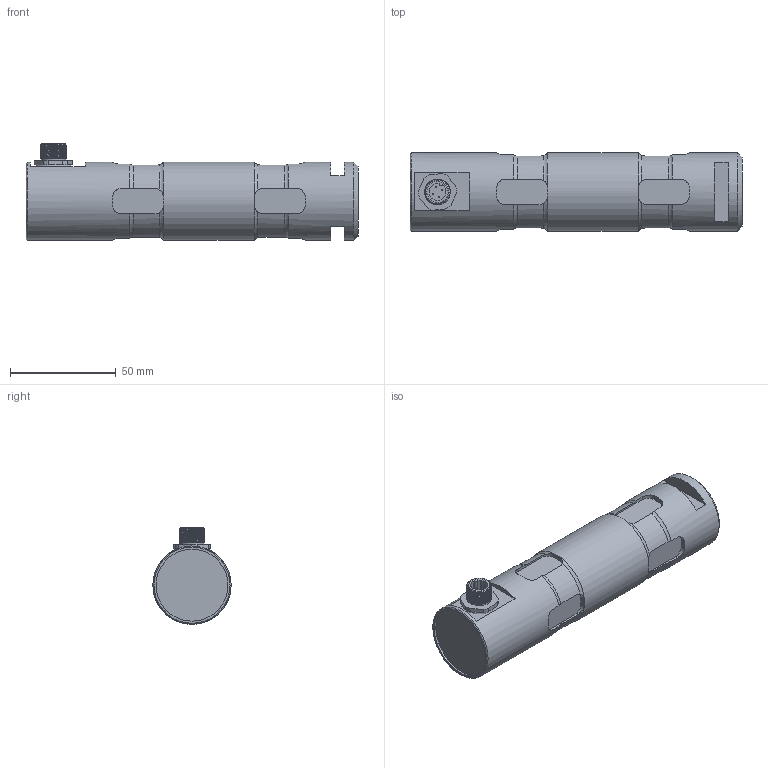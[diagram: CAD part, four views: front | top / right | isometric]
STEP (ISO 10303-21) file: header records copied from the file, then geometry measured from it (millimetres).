
FILE_DESCRIPTION(/* description */ ('Alibre Inc.'),/* implementation_level */ '2;1');
FILE_NAME(/* name */ 'export1',/* time_stamp */ '2018-01-31T13:40:57+01:00',/* author */ (''),/* organization */ (''),/* preprocessor_version */ 'ST-DEVELOPER v14',/* originating_system */ 'Alibre',/* authorisation */ '');
FILE_SCHEMA (('CONFIG_CONTROL_DESIGN'));
Length unit declared in the file: centimetre
Products named in the file (6): ID_1; ID_2; ID_3; ID_4
Bounding box: 157 x 37 x 45.66 mm (x, y, z)
Volume: 159364.7 mm3; surface area: 25462.4 mm2
Topology: 8 solids, 8 shells, 263 faces, 649 edges, 413 vertices
Faces by surface type: plane 130, cylinder 87, bspline 23, torus 17, cone 6
Full cylindrical faces by diameter (mm): 0.5 x8, 8 x2, 10 x4, 11.5 x1, 13 x1, 14.376 x1, 34 x1, 37 x3
Entity records: 19633 total; most frequent: CARTESIAN_POINT 13713, ORIENTED_EDGE 1224, DIRECTION 825, EDGE_CURVE 607, VERTEX_POINT 401, AXIS2_PLACEMENT_3D 327, FACE_BOUND 311, EDGE_LOOP 310
